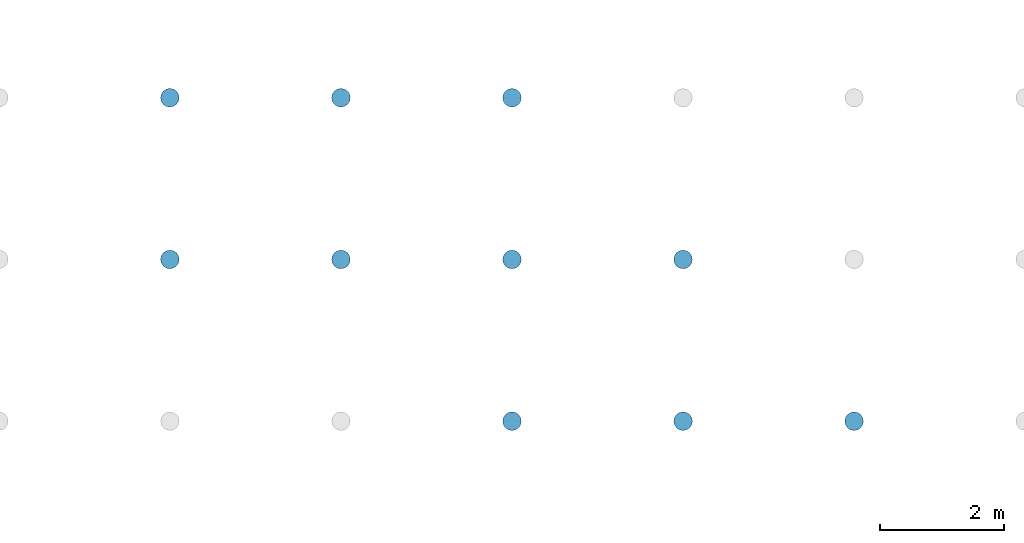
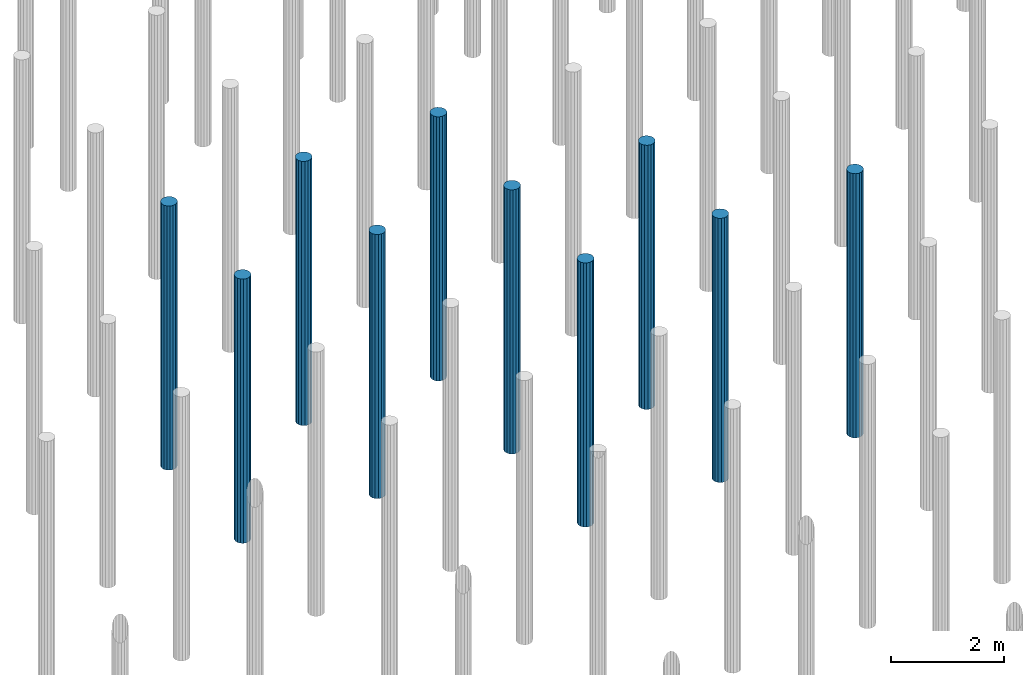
# One storey, part 38 of 102: 10 slabs.
"""IFC2X3 building model written with IfcOpenShell, lengths in millimetres."""

import ifcopenshell
import ifcopenshell.guid

model = None  # the IFC model being written
_history = None  # IfcOwnerHistory: only IFC2X3 demands one
_inside = {}  # id of a spatial element -> (the spatial element, [elements in it])
_under = {}  # id of a project, library or spatial element -> (it, [spatial elements below it])
_declared = {}  # id of a project -> (the project, [libraries it declares])
_typed = {}  # id of a type object -> (the type object, [elements of that type])
_made_of = {}  # id of a material, layer set ... -> (it, [elements and type objects made of it])


def new_model(schema):
    """Start an empty IFC model of exactly this schema.

    Asked for "IFC4X3", IfcOpenShell would pick the latest addendum, in which some entities
    have other attributes; the version numbers below select the first issue.
    IFC2X3 requires an IfcOwnerHistory on every rooted entity: one is made here for all.
    """
    global model, _history
    if schema == "IFC4X3":
        model = ifcopenshell.file(schema_version=(4, 3, 0, 0))
    else:
        model = ifcopenshell.file(schema=schema)
    _inside.clear()
    _under.clear()
    _declared.clear()
    _typed.clear()
    _made_of.clear()
    _history = None
    if model.schema == "IFC2X3":
        org = make("IfcOrganization", Name="unknown")
        user = make(
            "IfcPersonAndOrganization",
            ThePerson=make("IfcPerson", FamilyName="unknown"),
            TheOrganization=org,
        )
        app = make(
            "IfcApplication",
            ApplicationDeveloper=org,
            Version="unknown",
            ApplicationFullName="unknown",
            ApplicationIdentifier="unknown",
        )
        _history = make(
            "IfcOwnerHistory",
            OwningUser=user,
            OwningApplication=app,
            ChangeAction="ADDED",
            CreationDate=0,
        )
    return model


def make(cls, **values):
    """One entity of the class cls with the attributes given. An attribute that is None is left unset."""
    return model.create_entity(
        cls, **{name: value for name, value in values.items() if value is not None}
    )


def entity(cls, *values):
    """Any entity or typed value of the class cls, its attributes in the order of the schema. None: left unset."""
    e = model.create_entity(cls)
    for i, value in enumerate(values):
        if value is not None:
            e[i] = value
    return e


def rooted(cls, **values):
    """An entity with a GlobalId (a new one), such as an element, a storey or a relation."""
    return make(cls, GlobalId=ifcopenshell.guid.new(), OwnerHistory=_history, **values)


def si_unit(unit_type, name, prefix=None):
    """IfcSIUnit, for example si_unit("LENGTHUNIT", "METRE", prefix="MILLI")."""
    return make("IfcSIUnit", UnitType=unit_type, Prefix=prefix, Name=name)


def converted_unit(unit_type, name, factor, base, dimensions=None, offset=None):
    """IfcConversionBasedUnit, such as the inch: factor (a typed value) times the base unit."""
    return make(
        "IfcConversionBasedUnit"
        if offset is None
        else "IfcConversionBasedUnitWithOffset",
        ConversionOffset=offset,
        Dimensions=None
        if dimensions is None
        else entity("IfcDimensionalExponents", *dimensions),
        UnitType=unit_type,
        Name=name,
        ConversionFactor=make(
            "IfcMeasureWithUnit", ValueComponent=factor, UnitComponent=base
        ),
    )


def derived_unit(unit_type, elements):
    """IfcDerivedUnit: a product of units, each with its exponent."""
    return make(
        "IfcDerivedUnit",
        Elements=[
            make("IfcDerivedUnitElement", Unit=unit, Exponent=power)
            for unit, power in elements
        ],
        UnitType=unit_type,
    )


def money_unit(currency):
    """IfcMonetaryUnit."""
    return make("IfcMonetaryUnit", Currency=currency)


def assignment(units):
    """IfcUnitAssignment: the units of a project."""
    return None if units is None else make("IfcUnitAssignment", Units=units)


def point(xyz):
    """IfcCartesianPoint."""
    return None if xyz is None else make("IfcCartesianPoint", Coordinates=xyz)


def direction(xyz):
    """IfcDirection."""
    return None if xyz is None else make("IfcDirection", DirectionRatios=xyz)


def frame(location, z_axis=None, x_axis=None):
    """IfcAxis2Placement3D, a coordinate frame: its origin and axes. An axis left out is left unset."""
    return make(
        "IfcAxis2Placement3D",
        Location=point(location),
        Axis=direction(z_axis),
        RefDirection=direction(x_axis),
    )


def origin_with_axes():
    """The frame at (0, 0, 0) with the z axis (0, 0, 1) and the x axis (1, 0, 0) written out."""
    return frame((0.0, 0.0, 0.0), z_axis=(0.0, 0.0, 1.0), x_axis=(1.0, 0.0, 0.0))


def place(relative_to, where):
    """IfcLocalPlacement: puts the frame where relative to a parent placement (None: the world)."""
    return make(
        "IfcLocalPlacement", PlacementRelTo=relative_to, RelativePlacement=where
    )


def context(
    kind, dimensions, precision=None, world=None, true_north=None, identifier=None
):
    """IfcGeometricRepresentationContext, for example the 3D "Model" context."""
    return make(
        "IfcGeometricRepresentationContext",
        ContextIdentifier=identifier,
        ContextType=kind,
        CoordinateSpaceDimension=dimensions,
        Precision=precision,
        WorldCoordinateSystem=world,
        TrueNorth=true_north,
    )


def subcontext(parent, identifier, kind, view, scale=None):
    """IfcGeometricRepresentationSubContext, for example "Body" below "Model"."""
    return make(
        "IfcGeometricRepresentationSubContext",
        ContextIdentifier=identifier,
        ContextType=kind,
        ParentContext=parent,
        TargetScale=scale,
        TargetView=view,
    )


def project(units=None, contexts=None):
    """IfcProject with its units and contexts."""
    return rooted(
        "IfcProject",
        Name="project",
        RepresentationContexts=contexts,
        UnitsInContext=assignment(units),
    )


def spatial(cls, under=None, at=None, **own):
    """A site, building, storey or space (cls), placed at a placement, below another one or the project."""
    s = rooted(cls, ObjectPlacement=at, **own)
    if under is not None:
        _under.setdefault(under.id(), (under, []))[1].append(s)
    return s


def faces_of(points, faces, orient=None, outer=None):
    """IfcFace entities. A face is a list of loops; a loop is a list of indices into points, from 0.

    orient and outer hold one flag for each loop. By default every Orientation is true, the
    first loop of a face is its IfcFaceOuterBound and the others are IfcFaceBound.
    """
    made = []
    for i, loops in enumerate(faces):
        bounds = []
        for j, loop in enumerate(loops):
            is_outer = j == 0 if outer is None else outer[i][j]
            bounds.append(
                make(
                    "IfcFaceOuterBound" if is_outer else "IfcFaceBound",
                    Bound=make("IfcPolyLoop", Polygon=[points[k] for k in loop]),
                    Orientation=True if orient is None else orient[i][j],
                )
            )
        made.append(make("IfcFace", Bounds=bounds))
    return made


def faceted_brep(points, faces, orient=None, outer=None, voids=None):
    """IfcFacetedBrep: a solid bounded by flat faces; with voids (closed shells), ...WithVoids."""
    shared = [point(p) for p in points]
    hull = make("IfcClosedShell", CfsFaces=faces_of(shared, faces, orient, outer))
    if voids is None:
        return make("IfcFacetedBrep", Outer=hull)
    return make(
        "IfcFacetedBrepWithVoids",
        Outer=hull,
        Voids=[
            make(cls, CfsFaces=faces_of(shared, fs, o, b)) for cls, fs, o, b in voids
        ],
    )


def shape(context_of_items, identifier, shape_type, items):
    """IfcShapeRepresentation: the items that make up one representation, for example the "Body"."""
    return make(
        "IfcShapeRepresentation",
        ContextOfItems=context_of_items,
        RepresentationIdentifier=identifier,
        RepresentationType=shape_type,
        Items=items,
    )


def material(Name=None, Category=None):
    """IfcMaterial."""
    return make("IfcMaterial", Name=Name, Category=Category)


def made_of(thing, what):
    """Note that an element or type object is made of a material, layer set ...; save() writes the relation."""
    if what is not None:
        _made_of.setdefault(what.id(), (what, []))[1].append(thing)
    return thing


def type_object(cls, material=None, **own):
    """A type object (cls), such as IfcWallType, which elements share."""
    return made_of(rooted(cls, **own), material)


def element(
    cls,
    number,
    at=None,
    inside=None,
    cuts=None,
    type_object=None,
    material=None,
    context=None,
    identifier="Body",
    shape_type=None,
    held_by="IfcProductDefinitionShape",
    body=None,
    shapes=None,
    **own,
):
    """One element of the class cls, such as IfcWall. Its Tag is "e" and its number.

    at: its placement. inside: the storey or other place that contains it. cuts: it is an
    opening in that element (IfcRelVoidsElement). A single representation is given by context,
    identifier, shape_type and body (its items); several are given by shapes. held_by: the class
    of the entity that holds the representations. save() writes the other relations.
    """
    e = rooted(cls, Tag="e%d" % number, ObjectPlacement=at, **own)
    if body is not None:
        shapes = [shape(context, identifier, shape_type, body)]
    if shapes is not None:
        e.Representation = make(held_by, Representations=shapes)
    if inside is not None:
        _inside.setdefault(inside.id(), (inside, []))[1].append(e)
    if cuts is not None:
        rooted(
            "IfcRelVoidsElement", RelatingBuildingElement=cuts, RelatedOpeningElement=e
        )
    if type_object is not None:
        _typed.setdefault(type_object.id(), (type_object, []))[1].append(e)
    return made_of(e, material)


def aggregate(whole, parts):
    """IfcRelAggregates: a whole, such as a stair, and the parts it consists of."""
    return rooted("IfcRelAggregates", RelatingObject=whole, RelatedObjects=parts)


def save(model, path):
    """Write the relations noted so far, then the file.

    IfcRelAggregates (storeys below a building ...), IfcRelContainedInSpatialStructure (elements
    in a storey), IfcRelDefinesByType, IfcRelAssociatesMaterial and IfcRelDeclares: one each for
    every whole, place, type object, material and project.
    """
    for whole, parts in _under.values():
        aggregate(whole, parts)
    for where, things in _inside.values():
        rooted(
            "IfcRelContainedInSpatialStructure",
            RelatedElements=things,
            RelatingStructure=where,
        )
    for kind, things in _typed.values():
        rooted("IfcRelDefinesByType", RelatedObjects=things, RelatingType=kind)
    for what, things in _made_of.values():
        rooted("IfcRelAssociatesMaterial", RelatedObjects=things, RelatingMaterial=what)
    for by, libraries in _declared.values():
        rooted("IfcRelDeclares", RelatingContext=by, RelatedDefinitions=libraries)
    model.write(path)


model = new_model("IFC2X3")

# Units and contexts
model_context = context("Model", 3, precision=0.01, world=origin_with_axes(), true_north=direction((0.0, 1.0)))
body_context = subcontext(model_context, "Body", "Model", "MODEL_VIEW")
ifc_project = project(units=[si_unit("LENGTHUNIT", "METRE", prefix="MILLI"), si_unit("AREAUNIT", "SQUARE_METRE"), si_unit("VOLUMEUNIT", "CUBIC_METRE"), converted_unit("PLANEANGLEUNIT", "DEGREE", entity("IfcPlaneAngleMeasure", 0.0174532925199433), si_unit("PLANEANGLEUNIT", "RADIAN"), dimensions=[0, 0, 0, 0, 0, 0, 0]), money_unit("EUR"), converted_unit("TIMEUNIT", "Year", entity("IfcTimeMeasure", 31557600.0), si_unit("TIMEUNIT", "SECOND"), dimensions=[0, 0, 1, 0, 0, 0, 0]), si_unit("MASSUNIT", "GRAM", prefix="KILO"), si_unit("THERMODYNAMICTEMPERATUREUNIT", "DEGREE_CELSIUS"), si_unit("LUMINOUSINTENSITYUNIT", "LUMEN"), si_unit("ENERGYUNIT", "JOULE", prefix="MEGA"), derived_unit("THERMALCONDUCTANCEUNIT", [(si_unit("POWERUNIT", "WATT"), 1), (si_unit("LENGTHUNIT", "METRE"), -1), (si_unit("THERMODYNAMICTEMPERATUREUNIT", "KELVIN"), -1)]), derived_unit("SPECIFICHEATCAPACITYUNIT", [(si_unit("ENERGYUNIT", "JOULE"), 1), (si_unit("MASSUNIT", "GRAM", prefix="KILO"), -1), (si_unit("THERMODYNAMICTEMPERATUREUNIT", "KELVIN"), -1)]), derived_unit("MASSDENSITYUNIT", [(si_unit("MASSUNIT", "GRAM", prefix="KILO"), 1), (si_unit("VOLUMEUNIT", "CUBIC_METRE"), -1)])], contexts=[model_context])

# Site, building, storey
site_placement = place(None, origin_with_axes())
site = spatial("IfcSite", under=ifc_project, at=site_placement, Name="Site", CompositionType="ELEMENT")
building_placement = place(site_placement, origin_with_axes())
building = spatial("IfcBuilding", under=site, at=building_placement, Name="Naam gebouw", CompositionType="ELEMENT")
storey_placement = place(building_placement, frame((0.0, 0.0, -1020.0), z_axis=(0.0, 0.0, 1.0), x_axis=(1.0, 0.0, 0.0)))
storey = spatial("IfcBuildingStorey", under=building, at=storey_placement, Name="-2 fundering", CompositionType="ELEMENT", Elevation=-1020.0)

# Slabs
ifc_material = material(Name="WSP_beton - ihwg beton")
slab_type_1 = type_object("IfcSlabType", Name="Slab 174", PredefinedType="NOTDEFINED")
slab_1_placement = place(storey_placement, frame((25299.99999999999, 30000.0, 979.9999952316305), z_axis=(0.0, 0.0, 1.0), x_axis=(1.0, 0.0, 0.0)))
element("IfcSlab", 1, at=slab_1_placement, inside=storey, type_object=slab_type_1, material=ifc_material, Name="17_WSP_FD_beton - fundatiepaal v21-2:ø300 (schroef)", PredefinedType="NOTDEFINED", context=body_context, shape_type="Brep", body=[
    faceted_brep([(20226.0, 52300.99999999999, -5980.0), (20224.0, 52300.99999999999, -5980.0), (20224.0, 52300.99999999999, -5978.000000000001), (20226.0, 52300.99999999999, -5978.000000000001), (20226.0, 52299.0, -5980.0), (20224.0, 52299.0, -5980.0), (20224.0, 52299.0, -5978.000000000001), (20226.0, 52299.0, -5978.000000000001)], [[[0, 1, 2, 3]], [[0, 4, 5, 1]], [[1, 5, 6, 2]], [[3, 2, 6, 7]], [[4, 0, 3, 7]], [[5, 4, 7, 6]]]),
    faceted_brep([(20075.0, 52300.0, -5980.0), (20086.41807012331, 52242.59748514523, -5980.0), (20086.41807012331, 52242.59748514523, -280.0000000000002), (20075.0, 52300.0, -280.0000000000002), (20086.41807012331, 52357.40251485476, -5980.0), (20118.93398282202, 52406.06601717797, -5980.0), (20167.59748514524, 52438.58192987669, -5980.0), (20225.0, 52449.99999999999, -5980.0), (20282.40251485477, 52438.58192987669, -5980.0), (20331.06601717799, 52406.06601717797, -5980.0), (20363.58192987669, 52357.40251485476, -5980.0), (20375.0, 52300.0, -5980.0), (20363.58192987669, 52242.59748514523, -5980.0), (20331.06601717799, 52193.93398282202, -5980.0), (20282.40251485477, 52161.41807012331, -5980.0), (20225.0, 52150.0, -5980.0), (20167.59748514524, 52161.41807012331, -5980.0), (20118.93398282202, 52193.93398282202, -5980.0), (20118.93398282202, 52193.93398282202, -280.0000000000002), (20167.59748514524, 52161.41807012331, -280.0000000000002), (20225.0, 52150.0, -280.0000000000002), (20282.40251485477, 52161.41807012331, -280.0000000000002), (20331.06601717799, 52193.93398282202, -280.0000000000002), (20363.58192987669, 52242.59748514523, -280.0000000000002), (20375.0, 52300.0, -280.0000000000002), (20363.58192987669, 52357.40251485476, -280.0000000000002), (20331.06601717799, 52406.06601717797, -280.0000000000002), (20282.40251485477, 52438.58192987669, -280.0000000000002), (20225.0, 52449.99999999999, -280.0000000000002), (20167.59748514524, 52438.58192987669, -280.0000000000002), (20118.93398282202, 52406.06601717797, -280.0000000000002), (20086.41807012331, 52357.40251485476, -280.0000000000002)], [[[0, 1, 2, 3]], [[0, 4, 5, 6, 7, 8, 9, 10, 11, 12, 13, 14, 15, 16, 17, 1]], [[1, 17, 18, 2]], [[3, 2, 18, 19, 20, 21, 22, 23, 24, 25, 26, 27, 28, 29, 30, 31]], [[4, 0, 3, 31]], [[5, 4, 31, 30]], [[6, 5, 30, 29]], [[7, 6, 29, 28]], [[8, 7, 28, 27]], [[9, 8, 27, 26]], [[10, 9, 26, 25]], [[11, 10, 25, 24]], [[12, 11, 24, 23]], [[13, 12, 23, 22]], [[14, 13, 22, 21]], [[15, 14, 21, 20]], [[16, 15, 20, 19]], [[17, 16, 19, 18]]]),
])
slab_type_2 = type_object("IfcSlabType", Name="Slab 175", PredefinedType="NOTDEFINED")
slab_2_placement = place(storey_placement, frame((25299.99999999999, 30000.0, 979.9999952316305), z_axis=(0.0, 0.0, 1.0), x_axis=(1.0, 0.0, 0.0)))
element("IfcSlab", 2, at=slab_2_placement, inside=storey, type_object=slab_type_2, material=ifc_material, Name="17_WSP_FD_beton - fundatiepaal v21-2:ø300 (schroef)", PredefinedType="NOTDEFINED", context=body_context, shape_type="Brep", body=[
    faceted_brep([(28476.0, 52300.99999999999, -5980.0), (28474.0, 52300.99999999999, -5980.0), (28474.0, 52300.99999999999, -5978.000000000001), (28476.0, 52300.99999999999, -5978.000000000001), (28476.0, 52299.0, -5980.0), (28474.0, 52299.0, -5980.0), (28474.0, 52299.0, -5978.000000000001), (28476.0, 52299.0, -5978.000000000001)], [[[0, 1, 2, 3]], [[0, 4, 5, 1]], [[1, 5, 6, 2]], [[3, 2, 6, 7]], [[4, 0, 3, 7]], [[5, 4, 7, 6]]]),
    faceted_brep([(28325.0, 52300.0, -5980.0), (28336.41807012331, 52242.59748514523, -5980.0), (28336.41807012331, 52242.59748514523, -280.0000000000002), (28325.0, 52300.0, -280.0000000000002), (28336.41807012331, 52357.40251485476, -5980.0), (28368.93398282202, 52406.06601717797, -5980.0), (28417.59748514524, 52438.58192987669, -5980.0), (28475.0, 52449.99999999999, -5980.0), (28532.40251485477, 52438.58192987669, -5980.0), (28581.06601717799, 52406.06601717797, -5980.0), (28613.58192987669, 52357.40251485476, -5980.0), (28625.0, 52300.0, -5980.0), (28613.58192987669, 52242.59748514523, -5980.0), (28581.06601717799, 52193.93398282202, -5980.0), (28532.40251485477, 52161.41807012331, -5980.0), (28475.0, 52150.0, -5980.0), (28417.59748514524, 52161.41807012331, -5980.0), (28368.93398282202, 52193.93398282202, -5980.0), (28368.93398282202, 52193.93398282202, -280.0000000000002), (28417.59748514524, 52161.41807012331, -280.0000000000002), (28475.0, 52150.0, -280.0000000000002), (28532.40251485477, 52161.41807012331, -280.0000000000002), (28581.06601717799, 52193.93398282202, -280.0000000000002), (28613.58192987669, 52242.59748514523, -280.0000000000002), (28625.0, 52300.0, -280.0000000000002), (28613.58192987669, 52357.40251485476, -280.0000000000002), (28581.06601717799, 52406.06601717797, -280.0000000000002), (28532.40251485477, 52438.58192987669, -280.0000000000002), (28475.0, 52449.99999999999, -280.0000000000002), (28417.59748514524, 52438.58192987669, -280.0000000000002), (28368.93398282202, 52406.06601717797, -280.0000000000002), (28336.41807012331, 52357.40251485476, -280.0000000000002)], [[[0, 1, 2, 3]], [[0, 4, 5, 6, 7, 8, 9, 10, 11, 12, 13, 14, 15, 16, 17, 1]], [[1, 17, 18, 2]], [[3, 2, 18, 19, 20, 21, 22, 23, 24, 25, 26, 27, 28, 29, 30, 31]], [[4, 0, 3, 31]], [[5, 4, 31, 30]], [[6, 5, 30, 29]], [[7, 6, 29, 28]], [[8, 7, 28, 27]], [[9, 8, 27, 26]], [[10, 9, 26, 25]], [[11, 10, 25, 24]], [[12, 11, 24, 23]], [[13, 12, 23, 22]], [[14, 13, 22, 21]], [[15, 14, 21, 20]], [[16, 15, 20, 19]], [[17, 16, 19, 18]]]),
])
slab_type_3 = type_object("IfcSlabType", Name="Slab 173", PredefinedType="NOTDEFINED")
slab_3_placement = place(storey_placement, frame((25299.99999999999, 30000.0, 979.9999952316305), z_axis=(0.0, 0.0, 1.0), x_axis=(1.0, 0.0, 0.0)))
element("IfcSlab", 3, at=slab_3_placement, inside=storey, type_object=slab_type_3, material=ifc_material, Name="17_WSP_FD_beton - fundatiepaal v21-2:ø300 (schroef)", PredefinedType="NOTDEFINED", context=body_context, shape_type="Brep", body=[
    faceted_brep([(22976.0, 52300.99999999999, -5980.0), (22974.0, 52300.99999999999, -5980.0), (22974.0, 52300.99999999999, -5978.000000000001), (22976.0, 52300.99999999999, -5978.000000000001), (22976.0, 52299.0, -5980.0), (22974.0, 52299.0, -5980.0), (22974.0, 52299.0, -5978.000000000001), (22976.0, 52299.0, -5978.000000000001)], [[[0, 1, 2, 3]], [[0, 4, 5, 1]], [[1, 5, 6, 2]], [[3, 2, 6, 7]], [[4, 0, 3, 7]], [[5, 4, 7, 6]]]),
    faceted_brep([(22825.0, 52300.0, -5980.0), (22836.41807012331, 52242.59748514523, -5980.0), (22836.41807012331, 52242.59748514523, -280.0000000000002), (22825.0, 52300.0, -280.0000000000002), (22836.41807012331, 52357.40251485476, -5980.0), (22868.93398282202, 52406.06601717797, -5980.0), (22917.59748514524, 52438.58192987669, -5980.0), (22975.0, 52449.99999999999, -5980.0), (23032.40251485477, 52438.58192987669, -5980.0), (23081.06601717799, 52406.06601717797, -5980.0), (23113.58192987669, 52357.40251485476, -5980.0), (23125.0, 52300.0, -5980.0), (23113.58192987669, 52242.59748514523, -5980.0), (23081.06601717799, 52193.93398282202, -5980.0), (23032.40251485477, 52161.41807012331, -5980.0), (22975.0, 52150.0, -5980.0), (22917.59748514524, 52161.41807012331, -5980.0), (22868.93398282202, 52193.93398282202, -5980.0), (22868.93398282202, 52193.93398282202, -280.0000000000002), (22917.59748514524, 52161.41807012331, -280.0000000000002), (22975.0, 52150.0, -280.0000000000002), (23032.40251485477, 52161.41807012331, -280.0000000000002), (23081.06601717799, 52193.93398282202, -280.0000000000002), (23113.58192987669, 52242.59748514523, -280.0000000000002), (23125.0, 52300.0, -280.0000000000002), (23113.58192987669, 52357.40251485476, -280.0000000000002), (23081.06601717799, 52406.06601717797, -280.0000000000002), (23032.40251485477, 52438.58192987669, -280.0000000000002), (22975.0, 52449.99999999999, -280.0000000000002), (22917.59748514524, 52438.58192987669, -280.0000000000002), (22868.93398282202, 52406.06601717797, -280.0000000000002), (22836.41807012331, 52357.40251485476, -280.0000000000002)], [[[0, 1, 2, 3]], [[0, 4, 5, 6, 7, 8, 9, 10, 11, 12, 13, 14, 15, 16, 17, 1]], [[1, 17, 18, 2]], [[3, 2, 18, 19, 20, 21, 22, 23, 24, 25, 26, 27, 28, 29, 30, 31]], [[4, 0, 3, 31]], [[5, 4, 31, 30]], [[6, 5, 30, 29]], [[7, 6, 29, 28]], [[8, 7, 28, 27]], [[9, 8, 27, 26]], [[10, 9, 26, 25]], [[11, 10, 25, 24]], [[12, 11, 24, 23]], [[13, 12, 23, 22]], [[14, 13, 22, 21]], [[15, 14, 21, 20]], [[16, 15, 20, 19]], [[17, 16, 19, 18]]]),
])
slab_type_4 = type_object("IfcSlabType", Name="Slab 176", PredefinedType="NOTDEFINED")
slab_4_placement = place(storey_placement, frame((25299.99999999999, 30000.0, 979.9999952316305), z_axis=(0.0, 0.0, 1.0), x_axis=(1.0, 0.0, 0.0)))
element("IfcSlab", 4, at=slab_4_placement, inside=storey, type_object=slab_type_4, material=ifc_material, Name="17_WSP_FD_beton - fundatiepaal v21-2:ø300 (schroef)", PredefinedType="NOTDEFINED", context=body_context, shape_type="Brep", body=[
    faceted_brep([(25726.0, 52300.99999999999, -5980.0), (25724.0, 52300.99999999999, -5980.0), (25724.0, 52300.99999999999, -5978.000000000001), (25726.0, 52300.99999999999, -5978.000000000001), (25726.0, 52299.0, -5980.0), (25724.0, 52299.0, -5980.0), (25724.0, 52299.0, -5978.000000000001), (25726.0, 52299.0, -5978.000000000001)], [[[0, 1, 2, 3]], [[0, 4, 5, 1]], [[1, 5, 6, 2]], [[3, 2, 6, 7]], [[4, 0, 3, 7]], [[5, 4, 7, 6]]]),
    faceted_brep([(25575.0, 52300.0, -5980.0), (25586.41807012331, 52242.59748514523, -5980.0), (25586.41807012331, 52242.59748514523, -280.0000000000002), (25575.0, 52300.0, -280.0000000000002), (25586.41807012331, 52357.40251485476, -5980.0), (25618.93398282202, 52406.06601717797, -5980.0), (25667.59748514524, 52438.58192987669, -5980.0), (25725.0, 52449.99999999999, -5980.0), (25782.40251485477, 52438.58192987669, -5980.0), (25831.06601717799, 52406.06601717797, -5980.0), (25863.58192987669, 52357.40251485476, -5980.0), (25875.0, 52300.0, -5980.0), (25863.58192987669, 52242.59748514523, -5980.0), (25831.06601717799, 52193.93398282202, -5980.0), (25782.40251485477, 52161.41807012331, -5980.0), (25725.0, 52150.0, -5980.0), (25667.59748514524, 52161.41807012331, -5980.0), (25618.93398282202, 52193.93398282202, -5980.0), (25618.93398282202, 52193.93398282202, -280.0000000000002), (25667.59748514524, 52161.41807012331, -280.0000000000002), (25725.0, 52150.0, -280.0000000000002), (25782.40251485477, 52161.41807012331, -280.0000000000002), (25831.06601717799, 52193.93398282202, -280.0000000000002), (25863.58192987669, 52242.59748514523, -280.0000000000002), (25875.0, 52300.0, -280.0000000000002), (25863.58192987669, 52357.40251485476, -280.0000000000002), (25831.06601717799, 52406.06601717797, -280.0000000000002), (25782.40251485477, 52438.58192987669, -280.0000000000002), (25725.0, 52449.99999999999, -280.0000000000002), (25667.59748514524, 52438.58192987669, -280.0000000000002), (25618.93398282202, 52406.06601717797, -280.0000000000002), (25586.41807012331, 52357.40251485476, -280.0000000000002)], [[[0, 1, 2, 3]], [[0, 4, 5, 6, 7, 8, 9, 10, 11, 12, 13, 14, 15, 16, 17, 1]], [[1, 17, 18, 2]], [[3, 2, 18, 19, 20, 21, 22, 23, 24, 25, 26, 27, 28, 29, 30, 31]], [[4, 0, 3, 31]], [[5, 4, 31, 30]], [[6, 5, 30, 29]], [[7, 6, 29, 28]], [[8, 7, 28, 27]], [[9, 8, 27, 26]], [[10, 9, 26, 25]], [[11, 10, 25, 24]], [[12, 11, 24, 23]], [[13, 12, 23, 22]], [[14, 13, 22, 21]], [[15, 14, 21, 20]], [[16, 15, 20, 19]], [[17, 16, 19, 18]]]),
])
slab_type_5 = type_object("IfcSlabType", Name="Slab 186", PredefinedType="NOTDEFINED")
slab_5_placement = place(storey_placement, frame((25299.99999999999, 30000.0, 979.9999952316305), z_axis=(0.0, 0.0, 1.0), x_axis=(1.0, 0.0, 0.0)))
element("IfcSlab", 5, at=slab_5_placement, inside=storey, type_object=slab_type_5, material=ifc_material, Name="17_WSP_FD_beton - fundatiepaal v21-2:ø300 (schroef)", PredefinedType="NOTDEFINED", context=body_context, shape_type="Brep", body=[
    faceted_brep([(25726.0, 54900.99999999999, -5980.0), (25724.0, 54900.99999999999, -5980.0), (25724.0, 54900.99999999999, -5978.000000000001), (25726.0, 54900.99999999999, -5978.000000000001), (25726.0, 54899.0, -5980.0), (25724.0, 54899.0, -5980.0), (25724.0, 54899.0, -5978.000000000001), (25726.0, 54899.0, -5978.000000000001)], [[[0, 1, 2, 3]], [[0, 4, 5, 1]], [[1, 5, 6, 2]], [[3, 2, 6, 7]], [[4, 0, 3, 7]], [[5, 4, 7, 6]]]),
    faceted_brep([(25575.0, 54900.0, -5980.0), (25586.41807012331, 54842.59748514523, -5980.0), (25586.41807012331, 54842.59748514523, -280.0000000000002), (25575.0, 54900.0, -280.0000000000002), (25586.41807012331, 54957.40251485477, -5980.0), (25618.93398282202, 55006.06601717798, -5980.0), (25667.59748514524, 55038.58192987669, -5980.0), (25725.0, 55050.0, -5980.0), (25782.40251485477, 55038.58192987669, -5980.0), (25831.06601717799, 55006.06601717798, -5980.0), (25863.58192987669, 54957.40251485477, -5980.0), (25875.0, 54900.0, -5980.0), (25863.58192987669, 54842.59748514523, -5980.0), (25831.06601717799, 54793.93398282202, -5980.0), (25782.40251485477, 54761.41807012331, -5980.0), (25725.0, 54750.0, -5980.0), (25667.59748514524, 54761.41807012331, -5980.0), (25618.93398282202, 54793.93398282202, -5980.0), (25618.93398282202, 54793.93398282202, -280.0000000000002), (25667.59748514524, 54761.41807012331, -280.0000000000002), (25725.0, 54750.0, -280.0000000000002), (25782.40251485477, 54761.41807012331, -280.0000000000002), (25831.06601717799, 54793.93398282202, -280.0000000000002), (25863.58192987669, 54842.59748514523, -280.0000000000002), (25875.0, 54900.0, -280.0000000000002), (25863.58192987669, 54957.40251485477, -280.0000000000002), (25831.06601717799, 55006.06601717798, -280.0000000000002), (25782.40251485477, 55038.58192987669, -280.0000000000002), (25725.0, 55050.0, -280.0000000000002), (25667.59748514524, 55038.58192987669, -280.0000000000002), (25618.93398282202, 55006.06601717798, -280.0000000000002), (25586.41807012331, 54957.40251485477, -280.0000000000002)], [[[0, 1, 2, 3]], [[0, 4, 5, 6, 7, 8, 9, 10, 11, 12, 13, 14, 15, 16, 17, 1]], [[1, 17, 18, 2]], [[3, 2, 18, 19, 20, 21, 22, 23, 24, 25, 26, 27, 28, 29, 30, 31]], [[4, 0, 3, 31]], [[5, 4, 31, 30]], [[6, 5, 30, 29]], [[7, 6, 29, 28]], [[8, 7, 28, 27]], [[9, 8, 27, 26]], [[10, 9, 26, 25]], [[11, 10, 25, 24]], [[12, 11, 24, 23]], [[13, 12, 23, 22]], [[14, 13, 22, 21]], [[15, 14, 21, 20]], [[16, 15, 20, 19]], [[17, 16, 19, 18]]]),
])
slab_type_6 = type_object("IfcSlabType", Name="Slab 191", PredefinedType="NOTDEFINED")
slab_6_placement = place(storey_placement, frame((25299.99999999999, 30000.0, 979.9999952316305), z_axis=(0.0, 0.0, 1.0), x_axis=(1.0, 0.0, 0.0)))
element("IfcSlab", 6, at=slab_6_placement, inside=storey, type_object=slab_type_6, material=ifc_material, Name="17_WSP_FD_beton - fundatiepaal v21-2:ø300 (schroef)", PredefinedType="NOTDEFINED", context=body_context, shape_type="Brep", body=[
    faceted_brep([(22976.0, 54900.99999999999, -5980.0), (22974.0, 54900.99999999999, -5980.0), (22974.0, 54900.99999999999, -5978.000000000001), (22976.0, 54900.99999999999, -5978.000000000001), (22976.0, 54899.0, -5980.0), (22974.0, 54899.0, -5980.0), (22974.0, 54899.0, -5978.000000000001), (22976.0, 54899.0, -5978.000000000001)], [[[0, 1, 2, 3]], [[0, 4, 5, 1]], [[1, 5, 6, 2]], [[3, 2, 6, 7]], [[4, 0, 3, 7]], [[5, 4, 7, 6]]]),
    faceted_brep([(22825.0, 54900.0, -5980.0), (22836.41807012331, 54842.59748514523, -5980.0), (22836.41807012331, 54842.59748514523, -280.0000000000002), (22825.0, 54900.0, -280.0000000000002), (22836.41807012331, 54957.40251485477, -5980.0), (22868.93398282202, 55006.06601717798, -5980.0), (22917.59748514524, 55038.58192987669, -5980.0), (22975.0, 55050.0, -5980.0), (23032.40251485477, 55038.58192987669, -5980.0), (23081.06601717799, 55006.06601717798, -5980.0), (23113.58192987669, 54957.40251485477, -5980.0), (23125.0, 54900.0, -5980.0), (23113.58192987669, 54842.59748514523, -5980.0), (23081.06601717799, 54793.93398282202, -5980.0), (23032.40251485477, 54761.41807012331, -5980.0), (22975.0, 54750.0, -5980.0), (22917.59748514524, 54761.41807012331, -5980.0), (22868.93398282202, 54793.93398282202, -5980.0), (22868.93398282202, 54793.93398282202, -280.0000000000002), (22917.59748514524, 54761.41807012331, -280.0000000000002), (22975.0, 54750.0, -280.0000000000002), (23032.40251485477, 54761.41807012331, -280.0000000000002), (23081.06601717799, 54793.93398282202, -280.0000000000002), (23113.58192987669, 54842.59748514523, -280.0000000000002), (23125.0, 54900.0, -280.0000000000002), (23113.58192987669, 54957.40251485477, -280.0000000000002), (23081.06601717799, 55006.06601717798, -280.0000000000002), (23032.40251485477, 55038.58192987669, -280.0000000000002), (22975.0, 55050.0, -280.0000000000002), (22917.59748514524, 55038.58192987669, -280.0000000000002), (22868.93398282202, 55006.06601717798, -280.0000000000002), (22836.41807012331, 54957.40251485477, -280.0000000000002)], [[[0, 1, 2, 3]], [[0, 4, 5, 6, 7, 8, 9, 10, 11, 12, 13, 14, 15, 16, 17, 1]], [[1, 17, 18, 2]], [[3, 2, 18, 19, 20, 21, 22, 23, 24, 25, 26, 27, 28, 29, 30, 31]], [[4, 0, 3, 31]], [[5, 4, 31, 30]], [[6, 5, 30, 29]], [[7, 6, 29, 28]], [[8, 7, 28, 27]], [[9, 8, 27, 26]], [[10, 9, 26, 25]], [[11, 10, 25, 24]], [[12, 11, 24, 23]], [[13, 12, 23, 22]], [[14, 13, 22, 21]], [[15, 14, 21, 20]], [[16, 15, 20, 19]], [[17, 16, 19, 18]]]),
])
slab_type_7 = type_object("IfcSlabType", Name="Slab 192", PredefinedType="NOTDEFINED")
slab_7_placement = place(storey_placement, frame((25299.99999999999, 30000.0, 979.9999952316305), z_axis=(0.0, 0.0, 1.0), x_axis=(1.0, 0.0, 0.0)))
element("IfcSlab", 7, at=slab_7_placement, inside=storey, type_object=slab_type_7, material=ifc_material, Name="17_WSP_FD_beton - fundatiepaal v21-2:ø300 (schroef)", PredefinedType="NOTDEFINED", context=body_context, shape_type="Brep", body=[
    faceted_brep([(20226.0, 54900.99999999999, -5980.0), (20224.0, 54900.99999999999, -5980.0), (20224.0, 54900.99999999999, -5978.000000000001), (20226.0, 54900.99999999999, -5978.000000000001), (20226.0, 54899.0, -5980.0), (20224.0, 54899.0, -5980.0), (20224.0, 54899.0, -5978.000000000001), (20226.0, 54899.0, -5978.000000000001)], [[[0, 1, 2, 3]], [[0, 4, 5, 1]], [[1, 5, 6, 2]], [[3, 2, 6, 7]], [[4, 0, 3, 7]], [[5, 4, 7, 6]]]),
    faceted_brep([(20075.0, 54900.0, -5980.0), (20086.41807012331, 54842.59748514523, -5980.0), (20086.41807012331, 54842.59748514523, -280.0000000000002), (20075.0, 54900.0, -280.0000000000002), (20086.41807012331, 54957.40251485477, -5980.0), (20118.93398282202, 55006.06601717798, -5980.0), (20167.59748514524, 55038.58192987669, -5980.0), (20225.0, 55050.0, -5980.0), (20282.40251485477, 55038.58192987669, -5980.0), (20331.06601717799, 55006.06601717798, -5980.0), (20363.58192987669, 54957.40251485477, -5980.0), (20375.0, 54900.0, -5980.0), (20363.58192987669, 54842.59748514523, -5980.0), (20331.06601717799, 54793.93398282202, -5980.0), (20282.40251485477, 54761.41807012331, -5980.0), (20225.0, 54750.0, -5980.0), (20167.59748514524, 54761.41807012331, -5980.0), (20118.93398282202, 54793.93398282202, -5980.0), (20118.93398282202, 54793.93398282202, -280.0000000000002), (20167.59748514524, 54761.41807012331, -280.0000000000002), (20225.0, 54750.0, -280.0000000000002), (20282.40251485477, 54761.41807012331, -280.0000000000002), (20331.06601717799, 54793.93398282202, -280.0000000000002), (20363.58192987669, 54842.59748514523, -280.0000000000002), (20375.0, 54900.0, -280.0000000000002), (20363.58192987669, 54957.40251485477, -280.0000000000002), (20331.06601717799, 55006.06601717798, -280.0000000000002), (20282.40251485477, 55038.58192987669, -280.0000000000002), (20225.0, 55050.0, -280.0000000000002), (20167.59748514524, 55038.58192987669, -280.0000000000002), (20118.93398282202, 55006.06601717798, -280.0000000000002), (20086.41807012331, 54957.40251485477, -280.0000000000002)], [[[0, 1, 2, 3]], [[0, 4, 5, 6, 7, 8, 9, 10, 11, 12, 13, 14, 15, 16, 17, 1]], [[1, 17, 18, 2]], [[3, 2, 18, 19, 20, 21, 22, 23, 24, 25, 26, 27, 28, 29, 30, 31]], [[4, 0, 3, 31]], [[5, 4, 31, 30]], [[6, 5, 30, 29]], [[7, 6, 29, 28]], [[8, 7, 28, 27]], [[9, 8, 27, 26]], [[10, 9, 26, 25]], [[11, 10, 25, 24]], [[12, 11, 24, 23]], [[13, 12, 23, 22]], [[14, 13, 22, 21]], [[15, 14, 21, 20]], [[16, 15, 20, 19]], [[17, 16, 19, 18]]]),
])
slab_type_8 = type_object("IfcSlabType", Name="Slab 221", PredefinedType="NOTDEFINED")
slab_8_placement = place(storey_placement, frame((25299.99999999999, 30000.0, 979.9999952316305), z_axis=(0.0, 0.0, 1.0), x_axis=(1.0, 0.0, 0.0)))
element("IfcSlab", 8, at=slab_8_placement, inside=storey, type_object=slab_type_8, material=ifc_material, Name="17_WSP_FD_beton - fundatiepaal v21-2:ø300 (schroef)", PredefinedType="NOTDEFINED", context=body_context, shape_type="Brep", body=[
    faceted_brep([(28476.0, 49701.0, -5980.0), (28474.0, 49701.0, -5980.0), (28474.0, 49701.0, -5978.000000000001), (28476.0, 49701.0, -5978.000000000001), (28476.0, 49699.00000000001, -5980.0), (28474.0, 49699.00000000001, -5980.0), (28474.0, 49699.00000000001, -5978.000000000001), (28476.0, 49699.00000000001, -5978.000000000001)], [[[0, 1, 2, 3]], [[0, 4, 5, 1]], [[1, 5, 6, 2]], [[3, 2, 6, 7]], [[4, 0, 3, 7]], [[5, 4, 7, 6]]]),
    faceted_brep([(28325.0, 49700.0, -5980.0), (28336.41807012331, 49642.59748514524, -5980.0), (28336.41807012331, 49642.59748514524, -280.0000000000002), (28325.0, 49700.0, -280.0000000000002), (28336.41807012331, 49757.40251485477, -5980.0), (28368.93398282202, 49806.06601717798, -5980.0), (28417.59748514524, 49838.58192987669, -5980.0), (28475.0, 49850.0, -5980.0), (28532.40251485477, 49838.58192987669, -5980.0), (28581.06601717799, 49806.06601717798, -5980.0), (28613.58192987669, 49757.40251485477, -5980.0), (28625.0, 49700.0, -5980.0), (28613.58192987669, 49642.59748514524, -5980.0), (28581.06601717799, 49593.93398282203, -5980.0), (28532.40251485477, 49561.41807012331, -5980.0), (28475.0, 49550.00000000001, -5980.0), (28417.59748514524, 49561.41807012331, -5980.0), (28368.93398282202, 49593.93398282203, -5980.0), (28368.93398282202, 49593.93398282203, -280.0000000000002), (28417.59748514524, 49561.41807012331, -280.0000000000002), (28475.0, 49550.00000000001, -280.0000000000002), (28532.40251485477, 49561.41807012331, -280.0000000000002), (28581.06601717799, 49593.93398282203, -280.0000000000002), (28613.58192987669, 49642.59748514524, -280.0000000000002), (28625.0, 49700.0, -280.0000000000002), (28613.58192987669, 49757.40251485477, -280.0000000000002), (28581.06601717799, 49806.06601717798, -280.0000000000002), (28532.40251485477, 49838.58192987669, -280.0000000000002), (28475.0, 49850.0, -280.0000000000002), (28417.59748514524, 49838.58192987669, -280.0000000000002), (28368.93398282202, 49806.06601717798, -280.0000000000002), (28336.41807012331, 49757.40251485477, -280.0000000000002)], [[[0, 1, 2, 3]], [[0, 4, 5, 6, 7, 8, 9, 10, 11, 12, 13, 14, 15, 16, 17, 1]], [[1, 17, 18, 2]], [[3, 2, 18, 19, 20, 21, 22, 23, 24, 25, 26, 27, 28, 29, 30, 31]], [[4, 0, 3, 31]], [[5, 4, 31, 30]], [[6, 5, 30, 29]], [[7, 6, 29, 28]], [[8, 7, 28, 27]], [[9, 8, 27, 26]], [[10, 9, 26, 25]], [[11, 10, 25, 24]], [[12, 11, 24, 23]], [[13, 12, 23, 22]], [[14, 13, 22, 21]], [[15, 14, 21, 20]], [[16, 15, 20, 19]], [[17, 16, 19, 18]]]),
])
slab_type_9 = type_object("IfcSlabType", Name="Slab 222", PredefinedType="NOTDEFINED")
slab_9_placement = place(storey_placement, frame((25299.99999999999, 30000.0, 979.9999952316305), z_axis=(0.0, 0.0, 1.0), x_axis=(1.0, 0.0, 0.0)))
element("IfcSlab", 9, at=slab_9_placement, inside=storey, type_object=slab_type_9, material=ifc_material, Name="17_WSP_FD_beton - fundatiepaal v21-2:ø300 (schroef)", PredefinedType="NOTDEFINED", context=body_context, shape_type="Brep", body=[
    faceted_brep([(25726.0, 49701.0, -5980.0), (25724.0, 49701.0, -5980.0), (25724.0, 49701.0, -5978.000000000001), (25726.0, 49701.0, -5978.000000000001), (25726.0, 49699.00000000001, -5980.0), (25724.0, 49699.00000000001, -5980.0), (25724.0, 49699.00000000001, -5978.000000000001), (25726.0, 49699.00000000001, -5978.000000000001)], [[[0, 1, 2, 3]], [[0, 4, 5, 1]], [[1, 5, 6, 2]], [[3, 2, 6, 7]], [[4, 0, 3, 7]], [[5, 4, 7, 6]]]),
    faceted_brep([(25575.0, 49700.0, -5980.0), (25586.41807012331, 49642.59748514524, -5980.0), (25586.41807012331, 49642.59748514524, -280.0000000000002), (25575.0, 49700.0, -280.0000000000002), (25586.41807012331, 49757.40251485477, -5980.0), (25618.93398282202, 49806.06601717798, -5980.0), (25667.59748514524, 49838.58192987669, -5980.0), (25725.0, 49850.0, -5980.0), (25782.40251485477, 49838.58192987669, -5980.0), (25831.06601717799, 49806.06601717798, -5980.0), (25863.58192987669, 49757.40251485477, -5980.0), (25875.0, 49700.0, -5980.0), (25863.58192987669, 49642.59748514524, -5980.0), (25831.06601717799, 49593.93398282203, -5980.0), (25782.40251485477, 49561.41807012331, -5980.0), (25725.0, 49550.00000000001, -5980.0), (25667.59748514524, 49561.41807012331, -5980.0), (25618.93398282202, 49593.93398282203, -5980.0), (25618.93398282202, 49593.93398282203, -280.0000000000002), (25667.59748514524, 49561.41807012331, -280.0000000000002), (25725.0, 49550.00000000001, -280.0000000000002), (25782.40251485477, 49561.41807012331, -280.0000000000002), (25831.06601717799, 49593.93398282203, -280.0000000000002), (25863.58192987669, 49642.59748514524, -280.0000000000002), (25875.0, 49700.0, -280.0000000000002), (25863.58192987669, 49757.40251485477, -280.0000000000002), (25831.06601717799, 49806.06601717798, -280.0000000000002), (25782.40251485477, 49838.58192987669, -280.0000000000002), (25725.0, 49850.0, -280.0000000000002), (25667.59748514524, 49838.58192987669, -280.0000000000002), (25618.93398282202, 49806.06601717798, -280.0000000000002), (25586.41807012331, 49757.40251485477, -280.0000000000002)], [[[0, 1, 2, 3]], [[0, 4, 5, 6, 7, 8, 9, 10, 11, 12, 13, 14, 15, 16, 17, 1]], [[1, 17, 18, 2]], [[3, 2, 18, 19, 20, 21, 22, 23, 24, 25, 26, 27, 28, 29, 30, 31]], [[4, 0, 3, 31]], [[5, 4, 31, 30]], [[6, 5, 30, 29]], [[7, 6, 29, 28]], [[8, 7, 28, 27]], [[9, 8, 27, 26]], [[10, 9, 26, 25]], [[11, 10, 25, 24]], [[12, 11, 24, 23]], [[13, 12, 23, 22]], [[14, 13, 22, 21]], [[15, 14, 21, 20]], [[16, 15, 20, 19]], [[17, 16, 19, 18]]]),
])
slab_type_10 = type_object("IfcSlabType", Name="Slab 224", PredefinedType="NOTDEFINED")
slab_10_placement = place(storey_placement, frame((25299.99999999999, 30000.0, 979.9999952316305), z_axis=(0.0, 0.0, 1.0), x_axis=(1.0, 0.0, 0.0)))
element("IfcSlab", 10, at=slab_10_placement, inside=storey, type_object=slab_type_10, material=ifc_material, Name="17_WSP_FD_beton - fundatiepaal v21-2:ø300 (schroef)", PredefinedType="NOTDEFINED", context=body_context, shape_type="Brep", body=[
    faceted_brep([(31226.0, 49701.0, -5980.0), (31224.0, 49701.0, -5980.0), (31224.0, 49701.0, -5978.000000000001), (31226.0, 49701.0, -5978.000000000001), (31226.0, 49699.00000000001, -5980.0), (31224.0, 49699.00000000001, -5980.0), (31224.0, 49699.00000000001, -5978.000000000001), (31226.0, 49699.00000000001, -5978.000000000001)], [[[0, 1, 2, 3]], [[0, 4, 5, 1]], [[1, 5, 6, 2]], [[3, 2, 6, 7]], [[4, 0, 3, 7]], [[5, 4, 7, 6]]]),
    faceted_brep([(31075.0, 49700.0, -5980.0), (31086.41807012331, 49642.59748514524, -5980.0), (31086.41807012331, 49642.59748514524, -280.0000000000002), (31075.0, 49700.0, -280.0000000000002), (31086.41807012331, 49757.40251485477, -5980.0), (31118.93398282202, 49806.06601717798, -5980.0), (31167.59748514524, 49838.58192987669, -5980.0), (31225.0, 49850.0, -5980.0), (31282.40251485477, 49838.58192987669, -5980.0), (31331.06601717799, 49806.06601717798, -5980.0), (31363.58192987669, 49757.40251485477, -5980.0), (31375.0, 49700.0, -5980.0), (31363.58192987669, 49642.59748514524, -5980.0), (31331.06601717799, 49593.93398282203, -5980.0), (31282.40251485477, 49561.41807012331, -5980.0), (31225.0, 49550.00000000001, -5980.0), (31167.59748514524, 49561.41807012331, -5980.0), (31118.93398282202, 49593.93398282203, -5980.0), (31118.93398282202, 49593.93398282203, -280.0000000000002), (31167.59748514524, 49561.41807012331, -280.0000000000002), (31225.0, 49550.00000000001, -280.0000000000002), (31282.40251485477, 49561.41807012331, -280.0000000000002), (31331.06601717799, 49593.93398282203, -280.0000000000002), (31363.58192987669, 49642.59748514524, -280.0000000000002), (31375.0, 49700.0, -280.0000000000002), (31363.58192987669, 49757.40251485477, -280.0000000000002), (31331.06601717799, 49806.06601717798, -280.0000000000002), (31282.40251485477, 49838.58192987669, -280.0000000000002), (31225.0, 49850.0, -280.0000000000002), (31167.59748514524, 49838.58192987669, -280.0000000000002), (31118.93398282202, 49806.06601717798, -280.0000000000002), (31086.41807012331, 49757.40251485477, -280.0000000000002)], [[[0, 1, 2, 3]], [[0, 4, 5, 6, 7, 8, 9, 10, 11, 12, 13, 14, 15, 16, 17, 1]], [[1, 17, 18, 2]], [[3, 2, 18, 19, 20, 21, 22, 23, 24, 25, 26, 27, 28, 29, 30, 31]], [[4, 0, 3, 31]], [[5, 4, 31, 30]], [[6, 5, 30, 29]], [[7, 6, 29, 28]], [[8, 7, 28, 27]], [[9, 8, 27, 26]], [[10, 9, 26, 25]], [[11, 10, 25, 24]], [[12, 11, 24, 23]], [[13, 12, 23, 22]], [[14, 13, 22, 21]], [[15, 14, 21, 20]], [[16, 15, 20, 19]], [[17, 16, 19, 18]]]),
])

save(model, "model.ifc")
